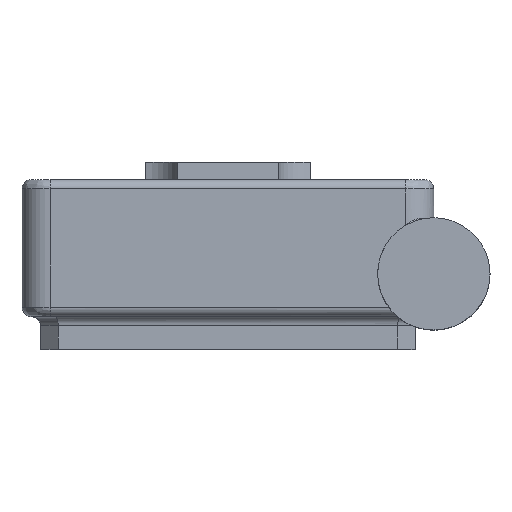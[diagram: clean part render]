
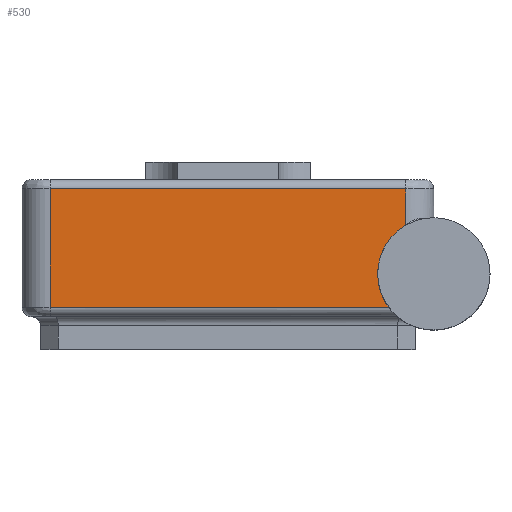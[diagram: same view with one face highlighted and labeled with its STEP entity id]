
A CAD part, top view. The second image highlights one B-rep face of the part: STEP entity #530.
In plain terms, the highlighted planar face has unit normal (0, 0, 1).
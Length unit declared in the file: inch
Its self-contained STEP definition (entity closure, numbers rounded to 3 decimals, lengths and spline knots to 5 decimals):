
#17 = VECTOR ( 'NONE', #3246, 39.37008 ) ;
#55 = CARTESIAN_POINT ( 'NONE',  ( -0.475, 0.453, 0.55 ) ) ;
#71 = CARTESIAN_POINT ( 'NONE',  ( 0.42745, 0.30245, 0.55 ) ) ;
#95 = CARTESIAN_POINT ( 'NONE',  ( -0.475, 0.1125, 0.55 ) ) ;
#152 = ORIENTED_EDGE ( 'NONE', *, *, #1242, .F. ) ;
#239 = LINE ( 'NONE', #1345, #17 ) ;
#407 = VERTEX_POINT ( 'NONE', #2108 ) ;
#417 = CARTESIAN_POINT ( 'NONE',  ( 0.4, 0.16834, 0.55 ) ) ;
#530 = ADVANCED_FACE ( 'NONE', ( #1657 ), #1268, .F. ) ;
#599 = CARTESIAN_POINT ( 'NONE',  ( 0.475, 0.3299, 0.55 ) ) ;
#697 = LINE ( 'NONE', #2717, #3668 ) ;
#1007 = EDGE_LOOP ( 'NONE', ( #1788, #152, #2833, #3806, #1191, #1564 ) ) ;
#1036 = CARTESIAN_POINT ( 'NONE',  ( 0.4, 0.2, 0.55 ) ) ;
#1068 = CARTESIAN_POINT ( 'NONE',  ( 0.4097, 0.13821, 0.55 ) ) ;
#1099 = VERTEX_POINT ( 'NONE', #599 ) ;
#1176 = VERTEX_POINT ( 'NONE', #1654 ) ;
#1191 = ORIENTED_EDGE ( 'NONE', *, *, #2873, .F. ) ;
#1242 = EDGE_CURVE ( 'NONE', #1099, #2756, #2249, .T. ) ;
#1268 = PLANE ( 'NONE',  #2487 ) ;
#1345 = CARTESIAN_POINT ( 'NONE',  ( -0.475, 0.428, 0.55 ) ) ;
#1380 = DIRECTION ( 'NONE',  ( -1., 0., 0. ) ) ;
#1491 =( BOUNDED_CURVE ( )  B_SPLINE_CURVE ( 3, ( #3241, #417, #1068, #3910 ),
 .UNSPECIFIED., .F., .T. ) 
 B_SPLINE_CURVE_WITH_KNOTS ( ( 4, 4 ),
 ( 0., 1. ),
 .UNSPECIFIED. ) 
 CURVE ( )  GEOMETRIC_REPRESENTATION_ITEM ( )  RATIONAL_B_SPLINE_CURVE ( ( 1., 0.968, 0.968, 1. ) ) 
 REPRESENTATION_ITEM ( '' )  );
#1498 = VECTOR ( 'NONE', #1739, 39.37008 ) ;
#1564 = ORIENTED_EDGE ( 'NONE', *, *, #2565, .F. ) ;
#1613 = CARTESIAN_POINT ( 'NONE',  ( 0.42817, 0.1125, 0.55 ) ) ;
#1635 = EDGE_CURVE ( 'NONE', #2756, #3144, #1491, .T. ) ;
#1654 = CARTESIAN_POINT ( 'NONE',  ( 0.475, 0.428, 0.55 ) ) ;
#1657 = FACE_OUTER_BOUND ( 'NONE', #1007, .T. ) ;
#1739 = DIRECTION ( 'NONE',  ( 0., -1., 0. ) ) ;
#1788 = ORIENTED_EDGE ( 'NONE', *, *, #1635, .F. ) ;
#2004 = DIRECTION ( 'NONE',  ( 0., 1., 0. ) ) ;
#2084 = CARTESIAN_POINT ( 'NONE',  ( 0.475, 0.453, 0.55 ) ) ;
#2102 = EDGE_CURVE ( 'NONE', #407, #1176, #239, .T. ) ;
#2108 = CARTESIAN_POINT ( 'NONE',  ( -0.475, 0.428, 0.55 ) ) ;
#2179 = CARTESIAN_POINT ( 'NONE',  ( 0.4, 0.2, 0.55 ) ) ;
#2249 =( BOUNDED_CURVE ( )  B_SPLINE_CURVE ( 3, ( #3568, #71, #2706, #1036 ),
 .UNSPECIFIED., .F., .T. ) 
 B_SPLINE_CURVE_WITH_KNOTS ( ( 4, 4 ),
 ( 0., 1. ),
 .UNSPECIFIED. ) 
 CURVE ( )  GEOMETRIC_REPRESENTATION_ITEM ( )  RATIONAL_B_SPLINE_CURVE ( ( 1., 0.911, 0.911, 1. ) ) 
 REPRESENTATION_ITEM ( '' )  );
#2322 = CARTESIAN_POINT ( 'NONE',  ( -0.475, 0.453, 0.55 ) ) ;
#2358 = DIRECTION ( 'NONE',  ( -1., 0., 0. ) ) ;
#2487 = AXIS2_PLACEMENT_3D ( 'NONE', #2322, #2965, #1380 ) ;
#2534 = EDGE_CURVE ( 'NONE', #1176, #1099, #2705, .T. ) ;
#2565 = EDGE_CURVE ( 'NONE', #3144, #3302, #697, .T. ) ;
#2705 = LINE ( 'NONE', #2084, #1498 ) ;
#2706 = CARTESIAN_POINT ( 'NONE',  ( 0.4, 0.2549, 0.55 ) ) ;
#2717 = CARTESIAN_POINT ( 'NONE',  ( -0.475, 0.1125, 0.55 ) ) ;
#2756 = VERTEX_POINT ( 'NONE', #2179 ) ;
#2833 = ORIENTED_EDGE ( 'NONE', *, *, #2534, .F. ) ;
#2873 = EDGE_CURVE ( 'NONE', #3302, #407, #3618, .T. ) ;
#2963 = VECTOR ( 'NONE', #2004, 39.37008 ) ;
#2965 = DIRECTION ( 'NONE',  ( 0., 0., -1. ) ) ;
#3144 = VERTEX_POINT ( 'NONE', #1613 ) ;
#3241 = CARTESIAN_POINT ( 'NONE',  ( 0.4, 0.2, 0.55 ) ) ;
#3246 = DIRECTION ( 'NONE',  ( 1., 0., 0. ) ) ;
#3302 = VERTEX_POINT ( 'NONE', #95 ) ;
#3568 = CARTESIAN_POINT ( 'NONE',  ( 0.475, 0.3299, 0.55 ) ) ;
#3618 = LINE ( 'NONE', #55, #2963 ) ;
#3668 = VECTOR ( 'NONE', #2358, 39.37008 ) ;
#3806 = ORIENTED_EDGE ( 'NONE', *, *, #2102, .F. ) ;
#3910 = CARTESIAN_POINT ( 'NONE',  ( 0.42817, 0.1125, 0.55 ) ) ;
